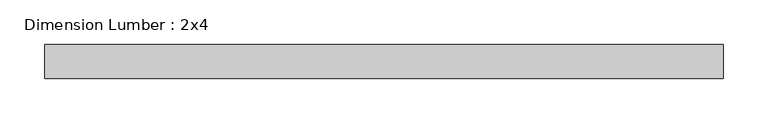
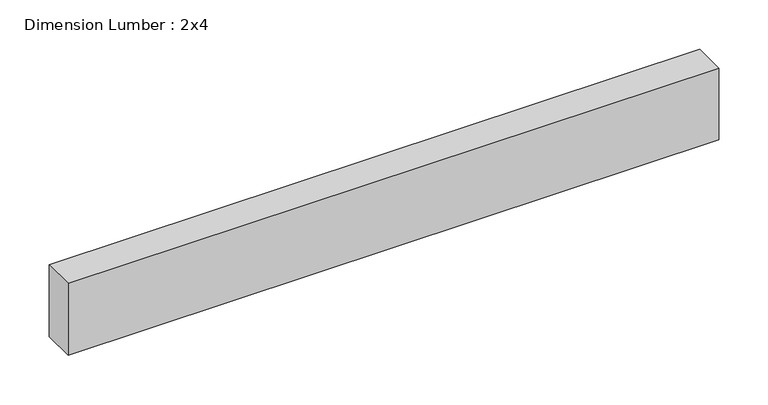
"""IFC4 building model written with IfcOpenShell, lengths in millimetres: beam geometry, Dimension Lumber : 2x4."""

import ifcopenshell
import ifcopenshell.guid

model = None  # the IFC model being written
_history = None  # IfcOwnerHistory: only IFC2X3 demands one
_inside = {}  # id of a spatial element -> (the spatial element, [elements in it])
_under = {}  # id of a project, library or spatial element -> (it, [spatial elements below it])
_declared = {}  # id of a project -> (the project, [libraries it declares])
_typed = {}  # id of a type object -> (the type object, [elements of that type])
_made_of = {}  # id of a material, layer set ... -> (it, [elements and type objects made of it])


def new_model(schema):
    """Start an empty IFC model of exactly this schema.

    Asked for "IFC4X3", IfcOpenShell would pick the latest addendum, in which some entities
    have other attributes; the version numbers below select the first issue.
    IFC2X3 requires an IfcOwnerHistory on every rooted entity: one is made here for all.
    """
    global model, _history
    if schema == "IFC4X3":
        model = ifcopenshell.file(schema_version=(4, 3, 0, 0))
    else:
        model = ifcopenshell.file(schema=schema)
    _inside.clear()
    _under.clear()
    _declared.clear()
    _typed.clear()
    _made_of.clear()
    _history = None
    if model.schema == "IFC2X3":
        org = make("IfcOrganization", Name="unknown")
        user = make(
            "IfcPersonAndOrganization",
            ThePerson=make("IfcPerson", FamilyName="unknown"),
            TheOrganization=org,
        )
        app = make(
            "IfcApplication",
            ApplicationDeveloper=org,
            Version="unknown",
            ApplicationFullName="unknown",
            ApplicationIdentifier="unknown",
        )
        _history = make(
            "IfcOwnerHistory",
            OwningUser=user,
            OwningApplication=app,
            ChangeAction="ADDED",
            CreationDate=0,
        )
    return model


def make(cls, **values):
    """One entity of the class cls with the attributes given. An attribute that is None is left unset."""
    return model.create_entity(
        cls, **{name: value for name, value in values.items() if value is not None}
    )


def rooted(cls, **values):
    """An entity with a GlobalId (a new one), such as an element, a storey or a relation."""
    return make(cls, GlobalId=ifcopenshell.guid.new(), OwnerHistory=_history, **values)


def si_unit(unit_type, name, prefix=None):
    """IfcSIUnit, for example si_unit("LENGTHUNIT", "METRE", prefix="MILLI")."""
    return make("IfcSIUnit", UnitType=unit_type, Prefix=prefix, Name=name)


def assignment(units):
    """IfcUnitAssignment: the units of a project."""
    return None if units is None else make("IfcUnitAssignment", Units=units)


def point(xyz):
    """IfcCartesianPoint."""
    return None if xyz is None else make("IfcCartesianPoint", Coordinates=xyz)


def direction(xyz):
    """IfcDirection."""
    return None if xyz is None else make("IfcDirection", DirectionRatios=xyz)


def frame(location, z_axis=None, x_axis=None):
    """IfcAxis2Placement3D, a coordinate frame: its origin and axes. An axis left out is left unset."""
    return make(
        "IfcAxis2Placement3D",
        Location=point(location),
        Axis=direction(z_axis),
        RefDirection=direction(x_axis),
    )


def origin():
    """The frame at (0, 0, 0) with its axes left unset."""
    return frame((0.0, 0.0, 0.0))


def place(relative_to, where):
    """IfcLocalPlacement: puts the frame where relative to a parent placement (None: the world)."""
    return make(
        "IfcLocalPlacement", PlacementRelTo=relative_to, RelativePlacement=where
    )


def context(
    kind, dimensions, precision=None, world=None, true_north=None, identifier=None
):
    """IfcGeometricRepresentationContext, for example the 3D "Model" context."""
    return make(
        "IfcGeometricRepresentationContext",
        ContextIdentifier=identifier,
        ContextType=kind,
        CoordinateSpaceDimension=dimensions,
        Precision=precision,
        WorldCoordinateSystem=world,
        TrueNorth=true_north,
    )


def project(units=None, contexts=None):
    """IfcProject with its units and contexts."""
    return rooted(
        "IfcProject",
        Name="project",
        RepresentationContexts=contexts,
        UnitsInContext=assignment(units),
    )


def spatial(cls, under=None, at=None, **own):
    """A site, building, storey or space (cls), placed at a placement, below another one or the project."""
    s = rooted(cls, ObjectPlacement=at, **own)
    if under is not None:
        _under.setdefault(under.id(), (under, []))[1].append(s)
    return s


def polyline(points):
    """IfcPolyline through the points."""
    return make("IfcPolyline", Points=[point(p) for p in points])


def outline(outer, holes=None, kind="AREA"):
    """IfcArbitraryClosedProfileDef: a profile drawn as a closed curve; with holes, ...WithVoids."""
    if holes is None:
        return make("IfcArbitraryClosedProfileDef", ProfileType=kind, OuterCurve=outer)
    return make(
        "IfcArbitraryProfileDefWithVoids",
        ProfileType=kind,
        OuterCurve=outer,
        InnerCurves=holes,
    )


def extrude(swept, where, along, depth):
    """IfcExtrudedAreaSolid: the profile swept, set in the frame where, extruded along a direction by depth."""
    return make(
        "IfcExtrudedAreaSolid",
        SweptArea=swept,
        Position=where,
        ExtrudedDirection=direction(along),
        Depth=depth,
    )


def shape(context_of_items, identifier, shape_type, items):
    """IfcShapeRepresentation: the items that make up one representation, for example the "Body"."""
    return make(
        "IfcShapeRepresentation",
        ContextOfItems=context_of_items,
        RepresentationIdentifier=identifier,
        RepresentationType=shape_type,
        Items=items,
    )


def source(mapping_origin, context_of_items, identifier, shape_type, items):
    """IfcRepresentationMap: a shape defined once, which mapped items show again and again."""
    return make(
        "IfcRepresentationMap",
        MappingOrigin=mapping_origin,
        MappedRepresentation=shape(context_of_items, identifier, shape_type, items),
    )


def transform(
    local_origin,
    x_axis=None,
    y_axis=None,
    z_axis=None,
    scale=None,
    scale2=None,
    scale3=None,
    uniform=True,
):
    """IfcCartesianTransformationOperator3D, or its non-uniform kind. x_axis, y_axis, z_axis: its Axis1, 2, 3."""
    if uniform:
        return make(
            "IfcCartesianTransformationOperator3D",
            Axis1=direction(x_axis),
            Axis2=direction(y_axis),
            LocalOrigin=point(local_origin),
            Scale=scale,
            Axis3=direction(z_axis),
        )
    return make(
        "IfcCartesianTransformationOperator3DnonUniform",
        Axis1=direction(x_axis),
        Axis2=direction(y_axis),
        LocalOrigin=point(local_origin),
        Scale=scale,
        Axis3=direction(z_axis),
        Scale2=scale2,
        Scale3=scale3,
    )


def mapped(mapping_source, mapping_target):
    """IfcMappedItem: shows the shape of a source again, moved by a transform."""
    return make(
        "IfcMappedItem", MappingSource=mapping_source, MappingTarget=mapping_target
    )


def made_of(thing, what):
    """Note that an element or type object is made of a material, layer set ...; save() writes the relation."""
    if what is not None:
        _made_of.setdefault(what.id(), (what, []))[1].append(thing)
    return thing


def element(
    cls,
    number,
    at=None,
    inside=None,
    cuts=None,
    type_object=None,
    material=None,
    context=None,
    identifier="Body",
    shape_type=None,
    held_by="IfcProductDefinitionShape",
    body=None,
    shapes=None,
    **own,
):
    """One element of the class cls, such as IfcWall. Its Tag is "e" and its number.

    at: its placement. inside: the storey or other place that contains it. cuts: it is an
    opening in that element (IfcRelVoidsElement). A single representation is given by context,
    identifier, shape_type and body (its items); several are given by shapes. held_by: the class
    of the entity that holds the representations. save() writes the other relations.
    """
    e = rooted(cls, Tag="e%d" % number, ObjectPlacement=at, **own)
    if body is not None:
        shapes = [shape(context, identifier, shape_type, body)]
    if shapes is not None:
        e.Representation = make(held_by, Representations=shapes)
    if inside is not None:
        _inside.setdefault(inside.id(), (inside, []))[1].append(e)
    if cuts is not None:
        rooted(
            "IfcRelVoidsElement", RelatingBuildingElement=cuts, RelatedOpeningElement=e
        )
    if type_object is not None:
        _typed.setdefault(type_object.id(), (type_object, []))[1].append(e)
    return made_of(e, material)


def aggregate(whole, parts):
    """IfcRelAggregates: a whole, such as a stair, and the parts it consists of."""
    return rooted("IfcRelAggregates", RelatingObject=whole, RelatedObjects=parts)


def save(model, path):
    """Write the relations noted so far, then the file.

    IfcRelAggregates (storeys below a building ...), IfcRelContainedInSpatialStructure (elements
    in a storey), IfcRelDefinesByType, IfcRelAssociatesMaterial and IfcRelDeclares: one each for
    every whole, place, type object, material and project.
    """
    for whole, parts in _under.values():
        aggregate(whole, parts)
    for where, things in _inside.values():
        rooted(
            "IfcRelContainedInSpatialStructure",
            RelatedElements=things,
            RelatingStructure=where,
        )
    for kind, things in _typed.values():
        rooted("IfcRelDefinesByType", RelatedObjects=things, RelatingType=kind)
    for what, things in _made_of.values():
        rooted("IfcRelAssociatesMaterial", RelatedObjects=things, RelatingMaterial=what)
    for by, libraries in _declared.values():
        rooted("IfcRelDeclares", RelatingContext=by, RelatedDefinitions=libraries)
    model.write(path)


def dimension_lumber_2x4_7e388e81(model_context):
    return source(origin(), model_context, "Body", "SweptSolid", [
        extrude(outline(polyline([(380.603125, 19.05), (380.603125, -19.05), (-380.603125, -19.05), (-380.603125, 19.05), (380.603125, 19.05)])), frame((0.0, 0.0, -44.45), z_axis=(0.0, 0.0, 1.0), x_axis=(1.0, 0.0, 0.0)), (0.0, 0.0, 1.0), 88.9),
    ])


if __name__ == "__main__":
    model = new_model("IFC4")
    model_context = context("Model", 3, world=origin())
    ifc_project = project(units=[si_unit("LENGTHUNIT", "METRE", prefix="MILLI")], contexts=[model_context])
    site = spatial("IfcSite", under=ifc_project)
    building = spatial("IfcBuilding", under=site)
    placement = place(None, origin())
    dimension_lumber_2x4_shape = dimension_lumber_2x4_7e388e81(model_context)
    element("IfcBeam", 1, ObjectType="Dimension Lumber : 2x4", at=placement, inside=building, context=model_context, shape_type="MappedRepresentation", body=[
        mapped(dimension_lumber_2x4_shape, transform((0.0, 0.0, 0.0), x_axis=(1.0, 0.0, 0.0), y_axis=(0.0, 1.0, 0.0), z_axis=(0.0, 0.0, 1.0))),
    ])
    save(model, "model.ifc")
